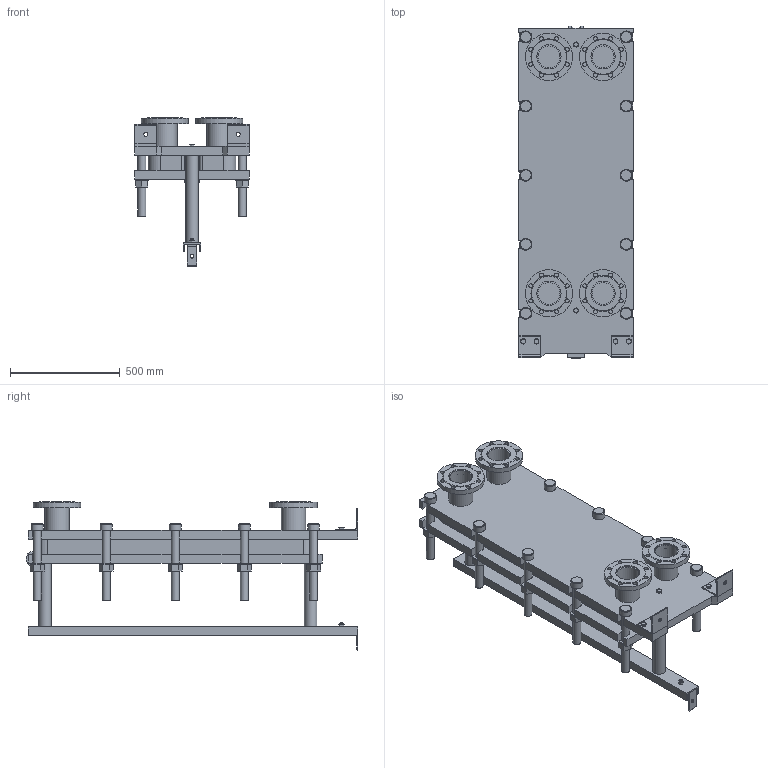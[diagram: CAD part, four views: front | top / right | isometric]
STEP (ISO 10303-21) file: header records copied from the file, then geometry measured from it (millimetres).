
FILE_DESCRIPTION(/* description */ (''),/* implementation_level */ '2;1');
FILE_NAME(/* name */ 'C:\Users\zhuro\Desktop\ENCO\TO\ЭН-04\ЭН-0,5-04-20-1.stp',/* time_stamp */ '2022-06-06T10:45:53+03:00',/* author */ ('zhuro'),/* organization */ (''),/* preprocessor_version */ 'ST-DEVELOPER v18.1',/* originating_system */ 'Autodesk Inventor 2022',/* authorisation */ '');
FILE_SCHEMA (('AUTOMOTIVE_DESIGN { 1 0 10303 214 3 1 1 }'));
Length unit declared in the file: millimetre
Products named in the file (1): ЭН-0,5-04-20-1
Bounding box: 520 x 1510 x 675 mm (x, y, z)
Volume: 101382490.1 mm3; surface area: 6596054.4 mm2
Topology: 45 solids, 45 shells, 668 faces, 1611 edges, 1048 vertices
Faces by surface type: plane 457, cylinder 166, cone 39, torus 6
Full cylindrical faces by diameter (mm): 8 x4, 10 x2, 16 x8, 18 x35, 36 x25, 40 x2, 42 x1, 45 x4, 54 x10, 57 x2, 60 x10, 68 x2, 100 x4, 110 x8, 215 x4
Entity records: 23607 total; most frequent: CARTESIAN_POINT 7348, DIRECTION 3371, ORIENTED_EDGE 3142, EDGE_CURVE 1571, AXIS2_PLACEMENT_3D 1199, VERTEX_POINT 1044, LINE 973, VECTOR 973
